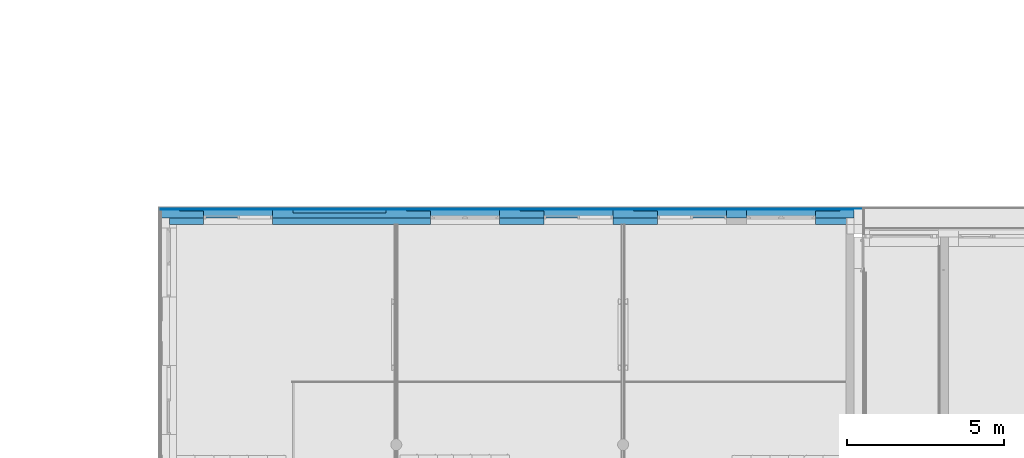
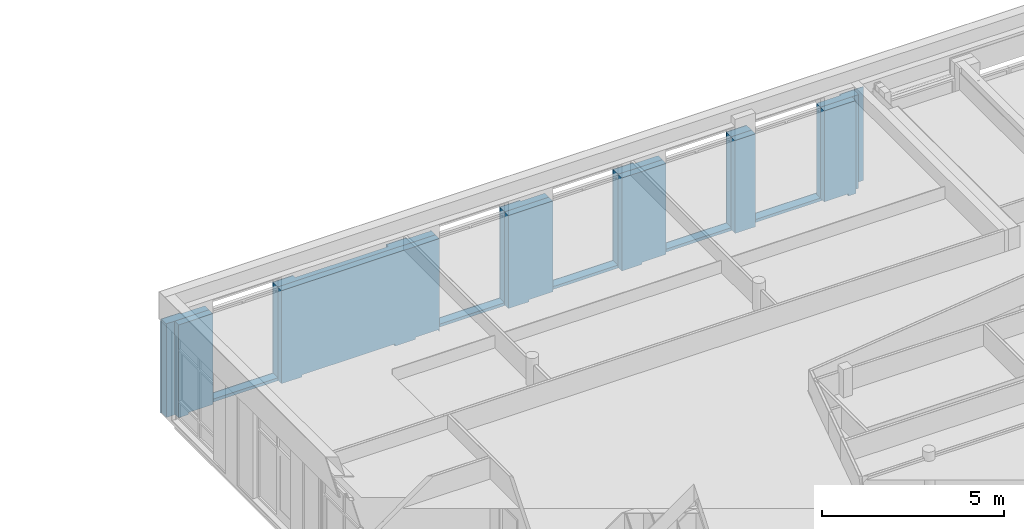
# One storey, part 40 of 167: 3 building element parts, 11 openings, 1 element without a shape of its own.
"""IFC2X3 building model written with IfcOpenShell, lengths in millimetres."""

from ifc_helpers import new_model, entity, si_unit, converted_unit, derived_unit, money_unit, direction, frame, origin_with_axes, place, context, subcontext, project, spatial, faceted_brep, material, type_object, element, aggregate, save


model = new_model("IFC2X3")

# Units and contexts
model_context = context("Model", 3, precision=0.01, world=origin_with_axes(), true_north=direction((0.0, 1.0)))
plan_context = context("Plan", 3, precision=0.01, world=origin_with_axes(), true_north=direction((0.0, 1.0)))
body_context = subcontext(model_context, "Body", "Model", "MODEL_VIEW")
ifc_project = project(units=[si_unit("LENGTHUNIT", "METRE", prefix="MILLI"), si_unit("AREAUNIT", "SQUARE_METRE"), si_unit("VOLUMEUNIT", "CUBIC_METRE"), converted_unit("PLANEANGLEUNIT", "DEGREE", entity("IfcPlaneAngleMeasure", 0.0174532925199), si_unit("PLANEANGLEUNIT", "RADIAN"), dimensions=[0, 0, 0, 0, 0, 0, 0]), si_unit("SOLIDANGLEUNIT", "STERADIAN"), money_unit("EUR"), converted_unit("TIMEUNIT", "Year", entity("IfcTimeMeasure", 31556926.0), si_unit("TIMEUNIT", "SECOND"), dimensions=[0, 0, 1, 0, 0, 0, 0]), si_unit("MASSUNIT", "GRAM", prefix="KILO"), si_unit("THERMODYNAMICTEMPERATUREUNIT", "DEGREE_CELSIUS"), si_unit("LUMINOUSINTENSITYUNIT", "LUMEN"), si_unit("ENERGYUNIT", "JOULE", prefix="MEGA"), derived_unit("THERMALCONDUCTANCEUNIT", [(si_unit("POWERUNIT", "WATT"), 1), (si_unit("LENGTHUNIT", "METRE"), -1), (si_unit("THERMODYNAMICTEMPERATUREUNIT", "KELVIN"), -1)]), derived_unit("SPECIFICHEATCAPACITYUNIT", [(si_unit("ENERGYUNIT", "JOULE"), 1), (si_unit("MASSUNIT", "GRAM", prefix="KILO"), -1), (si_unit("THERMODYNAMICTEMPERATUREUNIT", "KELVIN"), -1)]), derived_unit("MASSDENSITYUNIT", [(si_unit("MASSUNIT", "GRAM", prefix="KILO"), 1), (si_unit("VOLUMEUNIT", "CUBIC_METRE"), -1)])], contexts=[model_context, plan_context])

# Site, building, storey
site_placement = place(None, origin_with_axes())
site = spatial("IfcSite", under=ifc_project, at=site_placement, Name="Site", CompositionType="ELEMENT")
building_placement = place(site_placement, origin_with_axes())
building = spatial("IfcBuilding", under=site, at=building_placement, Name="Naam gebouw", CompositionType="ELEMENT")
storey_placement = place(building_placement, origin_with_axes())
storey = spatial("IfcBuildingStorey", under=building, at=storey_placement, Name="Begane grond", CompositionType="ELEMENT", Elevation=0.0)

# Wall, openings, building element parts
wall_type = type_object("IfcWallType", Name="_TenW_21_E-BOARD_bg_standaard 498", PredefinedType="NOTDEFINED")
wall_placement = place(storey_placement, frame((21725.0, 50400.0, -100.0), z_axis=(0.0, 0.0, 1.0), x_axis=(-1.0, 0.0, 0.0)))
wall = element("IfcWall", 1, at=wall_placement, inside=storey, type_object=wall_type, Name="21_Wand_Wand-x")
opening_1_placement = place(wall_placement, frame((21020.6609441, 0.0, 100.0), z_axis=(0.0, 0.0, 1.0), x_axis=(1.0, 0.0, 0.0)))
element("IfcOpeningElement", 2, at=opening_1_placement, cuts=wall, Name="31_Raam_-", context=body_context, shape_type="Brep", body=[
    faceted_brep([(382.125, -782.0, 0.0), (-382.125, -782.0, 0.0), (-382.125, -224.0, 0.0), (382.125, -224.0, 0.0), (382.125, -782.0, 3050.0), (-382.125, -782.0, 3050.0), (-382.125, -224.0, 3050.0), (382.125, -224.0, 3050.0)], [[[0, 1, 2, 3]], [[0, 4, 5, 1]], [[1, 5, 6, 2]], [[3, 2, 6, 7]], [[4, 0, 3, 7]], [[5, 4, 7, 6]]]),
])
opening_2_placement = place(wall_placement, frame((16325.0859441, 0.0, 100.0), z_axis=(0.0, 0.0, 1.0), x_axis=(1.0, 0.0, 0.0)))
element("IfcOpeningElement", 3, at=opening_2_placement, cuts=wall, Name="31_Raam_-", context=body_context, shape_type="Brep", body=[
    faceted_brep([(1477.4, -782.0, 0.0), (-1477.4, -782.0, 0.0), (-1477.4, -160.0, 0.0), (1477.4, -160.0, 0.0), (1477.4, -782.0, 3050.0), (-1477.4, -782.0, 3050.0), (-1477.4, -160.0, 3050.0), (1477.4, -160.0, 3050.0)], [[[0, 1, 2, 3]], [[0, 4, 5, 1]], [[1, 5, 6, 2]], [[3, 2, 6, 7]], [[4, 0, 3, 7]], [[5, 4, 7, 6]]]),
])
opening_3_placement = place(wall_placement, frame((13820.0609441, 0.0, 100.0), z_axis=(0.0, 0.0, 1.0), x_axis=(1.0, 0.0, 0.0)))
element("IfcOpeningElement", 4, at=opening_3_placement, cuts=wall, Name="31_Raam_-", context=body_context, shape_type="Brep", body=[
    faceted_brep([(382.125, -782.0, 0.0), (-382.125, -782.0, 0.0), (-382.125, -224.0, 0.0), (382.125, -224.0, 0.0), (382.125, -782.0, 3050.0), (-382.125, -782.0, 3050.0), (-382.125, -224.0, 3050.0), (382.125, -224.0, 3050.0)], [[[0, 1, 2, 3]], [[0, 4, 5, 1]], [[1, 5, 6, 2]], [[3, 2, 6, 7]], [[4, 0, 3, 7]], [[5, 4, 7, 6]]]),
])
opening_4_placement = place(wall_placement, frame((10219.7609441, 0.0, 100.0), z_axis=(0.0, 0.0, 1.0), x_axis=(1.0, 0.0, 0.0)))
element("IfcOpeningElement", 5, at=opening_4_placement, cuts=wall, Name="31_Raam_-", context=body_context, shape_type="Brep", body=[
    faceted_brep([(382.125, -782.0, 0.0), (-382.125, -782.0, 0.0), (-382.125, -224.0, 0.0), (382.125, -224.0, 0.0), (382.125, -782.0, 3050.0), (-382.125, -782.0, 3050.0), (-382.125, -224.0, 3050.0), (382.125, -224.0, 3050.0)], [[[0, 1, 2, 3]], [[0, 4, 5, 1]], [[1, 5, 6, 2]], [[3, 2, 6, 7]], [[4, 0, 3, 7]], [[5, 4, 7, 6]]]),
])
opening_5_placement = place(wall_placement, frame((6619.46094407, 0.0, 100.0), z_axis=(0.0, 0.0, 1.0), x_axis=(1.0, 0.0, 0.0)))
element("IfcOpeningElement", 6, at=opening_5_placement, cuts=wall, Name="31_Raam_-", context=body_context, shape_type="Brep", body=[
    faceted_brep([(382.125, -782.0, 0.0), (-382.125, -782.0, 0.0), (-382.125, -224.0, 0.0), (382.125, -224.0, 0.0), (382.125, -782.0, 3050.0), (-382.125, -782.0, 3050.0), (-382.125, -224.0, 3050.0), (382.125, -224.0, 3050.0)], [[[0, 1, 2, 3]], [[0, 4, 5, 1]], [[1, 5, 6, 2]], [[3, 2, 6, 7]], [[4, 0, 3, 7]], [[5, 4, 7, 6]]]),
])
opening_6_placement = place(wall_placement, frame((828.610944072, 0.0, 100.0), z_axis=(0.0, 0.0, 1.0), x_axis=(1.0, 0.0, 0.0)))
element("IfcOpeningElement", 7, at=opening_6_placement, cuts=wall, Name="31_Raam_-", context=body_context, shape_type="Brep", body=[
    faceted_brep([(382.125, -782.0, 0.0), (-382.125, -782.0, 0.0), (-382.125, -224.0, 0.0), (382.125, -224.0, 0.0), (382.125, -782.0, 3050.0), (-382.125, -782.0, 3050.0), (-382.125, -224.0, 3050.0), (382.125, -224.0, 3050.0)], [[[0, 1, 2, 3]], [[0, 4, 5, 1]], [[1, 5, 6, 2]], [[3, 2, 6, 7]], [[4, 0, 3, 7]], [[5, 4, 7, 6]]]),
])
opening_7_placement = place(wall_placement, frame((12342.3859441, 0.0, 100.0), z_axis=(0.0, 0.0, 1.0), x_axis=(1.0, 0.0, 0.0)))
element("IfcOpeningElement", 8, at=opening_7_placement, cuts=wall, Name="31_Raam_He-16", context=body_context, shape_type="Brep", body=[
    faceted_brep([(-1095.0, -84.0, 0.0), (-1095.0, -84.0, 3050.0), (-1095.0, 712.0, 3050.0), (-1095.0, 712.0, 0.0), (1095.0, -84.0, 0.0), (1095.0, -84.0, 3050.0), (1095.0, 712.0, 3050.0), (1095.0, 712.0, 0.0)], [[[0, 1, 2, 3]], [[0, 4, 5, 1]], [[1, 5, 6, 2]], [[3, 2, 6, 7]], [[4, 0, 3, 7]], [[5, 4, 7, 6]]]),
    faceted_brep([(-1095.0, -84.0, 3050.0), (-1095.0, -84.0, 0.0), (-1095.0, -782.0, 0.0), (-1095.0, -782.0, 3050.0), (1095.0, -84.0, 3050.0), (1095.0, -84.0, 0.0), (1095.0, -782.0, 0.0), (1095.0, -782.0, 3050.0)], [[[0, 1, 2, 3]], [[0, 4, 5, 1]], [[1, 5, 6, 2]], [[3, 2, 6, 7]], [[4, 0, 3, 7]], [[5, 4, 7, 6]]]),
])
opening_8_placement = place(wall_placement, frame((2305.73594407, 0.0, 100.0), z_axis=(0.0, 0.0, 1.0), x_axis=(1.0, 0.0, 0.0)))
element("IfcOpeningElement", 9, at=opening_8_placement, cuts=wall, Name="31_Raam_He-16", context=body_context, shape_type="Brep", body=[
    faceted_brep([(-1095.0, -84.0, 0.0), (-1095.0, -84.0, 3050.0), (-1095.0, 712.0, 3050.0), (-1095.0, 712.0, 0.0), (1095.0, -84.0, 0.0), (1095.0, -84.0, 3050.0), (1095.0, 712.0, 3050.0), (1095.0, 712.0, 0.0)], [[[0, 1, 2, 3]], [[0, 4, 5, 1]], [[1, 5, 6, 2]], [[3, 2, 6, 7]], [[4, 0, 3, 7]], [[5, 4, 7, 6]]]),
    faceted_brep([(-1095.0, -84.0, 3050.0), (-1095.0, -84.0, 0.0), (-1095.0, -782.0, 0.0), (-1095.0, -782.0, 3050.0), (1095.0, -84.0, 3050.0), (1095.0, -84.0, 0.0), (1095.0, -782.0, 0.0), (1095.0, -782.0, 3050.0)], [[[0, 1, 2, 3]], [[0, 4, 5, 1]], [[1, 5, 6, 2]], [[3, 2, 6, 7]], [[4, 0, 3, 7]], [[5, 4, 7, 6]]]),
])
opening_9_placement = place(wall_placement, frame((19543.5359441, 0.0, 100.0), z_axis=(0.0, 0.0, 1.0), x_axis=(1.0, 0.0, 0.0)))
element("IfcOpeningElement", 10, at=opening_9_placement, cuts=wall, Name="32_Deur_He-08s", context=body_context, shape_type="Brep", body=[
    faceted_brep([(1095.0, -84.0, 3050.0), (1095.0, -84.0, 0.0), (1095.0, 712.0, 0.0), (1095.0, 712.0, 3050.0), (-1095.0, -84.0, 3050.0), (-1095.0, -84.0, 0.0), (-1095.0, 712.0, 0.0), (-1095.0, 712.0, 3050.0)], [[[0, 1, 2, 3]], [[0, 4, 5, 1]], [[1, 5, 6, 2]], [[3, 2, 6, 7]], [[4, 0, 3, 7]], [[5, 4, 7, 6]]]),
    faceted_brep([(1095.0, -84.0, 0.0), (1095.0, -84.0, 3050.0), (1095.0, -782.0, 3050.0), (1095.0, -782.0, 0.0), (-1095.0, -84.0, 0.0), (-1095.0, -84.0, 3050.0), (-1095.0, -782.0, 3050.0), (-1095.0, -782.0, 0.0)], [[[0, 1, 2, 3]], [[0, 4, 5, 1]], [[1, 5, 6, 2]], [[3, 2, 6, 7]], [[4, 0, 3, 7]], [[5, 4, 7, 6]]]),
])
opening_10_placement = place(wall_placement, frame((8742.63594407, 0.0, 100.0), z_axis=(0.0, 0.0, 1.0), x_axis=(1.0, 0.0, 0.0)))
element("IfcOpeningElement", 11, at=opening_10_placement, cuts=wall, Name="32_Deur_He-08s", context=body_context, shape_type="Brep", body=[
    faceted_brep([(1095.0, -84.0, 3050.0), (1095.0, -84.0, 0.0), (1095.0, 712.0, 0.0), (1095.0, 712.0, 3050.0), (-1095.0, -84.0, 3050.0), (-1095.0, -84.0, 0.0), (-1095.0, 712.0, 0.0), (-1095.0, 712.0, 3050.0)], [[[0, 1, 2, 3]], [[0, 4, 5, 1]], [[1, 5, 6, 2]], [[3, 2, 6, 7]], [[4, 0, 3, 7]], [[5, 4, 7, 6]]]),
    faceted_brep([(1095.0, -84.0, 0.0), (1095.0, -84.0, 3050.0), (1095.0, -782.0, 3050.0), (1095.0, -782.0, 0.0), (-1095.0, -84.0, 0.0), (-1095.0, -84.0, 3050.0), (-1095.0, -782.0, 3050.0), (-1095.0, -782.0, 0.0)], [[[0, 1, 2, 3]], [[0, 4, 5, 1]], [[1, 5, 6, 2]], [[3, 2, 6, 7]], [[4, 0, 3, 7]], [[5, 4, 7, 6]]]),
])
opening_11_placement = place(wall_placement, frame((5142.33594407, 0.0, 100.0), z_axis=(0.0, 0.0, 1.0), x_axis=(1.0, 0.0, 0.0)))
element("IfcOpeningElement", 12, at=opening_11_placement, cuts=wall, Name="32_Deur_He-08", context=body_context, shape_type="Brep", body=[
    faceted_brep([(-1095.0, 712.0, 3050.0), (-1095.0, 712.0, 0.0), (-1095.0, -84.0, 0.0), (-1095.0, -84.0, 3050.0), (1095.0, 712.0, 3050.0), (1095.0, 712.0, 0.0), (1095.0, -84.0, 0.0), (1095.0, -84.0, 3050.0)], [[[0, 1, 2, 3]], [[0, 4, 5, 1]], [[1, 5, 6, 2]], [[3, 2, 6, 7]], [[4, 0, 3, 7]], [[5, 4, 7, 6]]]),
    faceted_brep([(-1095.0, -782.0, 0.0), (-1095.0, -782.0, 3050.0), (-1095.0, -84.0, 3050.0), (-1095.0, -84.0, 0.0), (1095.0, -782.0, 0.0), (1095.0, -782.0, 3050.0), (1095.0, -84.0, 3050.0), (1095.0, -84.0, 0.0)], [[[0, 1, 2, 3]], [[0, 4, 5, 1]], [[1, 5, 6, 2]], [[3, 2, 6, 7]], [[4, 0, 3, 7]], [[5, 4, 7, 6]]]),
])
ifc_material_1 = material(Name="Steen - Kalkzandsteen C")
building_element_part_1_placement = place(wall_placement, origin_with_axes())
building_element_part_1 = element("IfcBuildingElementPart", 13, at=building_element_part_1_placement, material=ifc_material_1, Name="Steen - Kalkzandsteen C", context=body_context, shape_type="Brep", body=[
    faceted_brep([(6237.33594407, 214.0, 3150.0), (6237.33594407, 0.0, 3150.0), (7647.63594407, 0.0, 3150.0), (7647.63594407, 214.0, 3150.0), (6237.33594407, 0.0, 100.0), (6237.33594407, 214.0, 100.0), (7001.58594407, 0.0, 100.0), (7001.58594407, 0.0, 30.0), (7647.63594407, 0.0, 30.0), (7647.63594407, 0.0, 100.0), (7647.63594407, 214.0, 100.0), (7647.63594407, 214.0, 30.0), (7001.58594407, 214.0, 30.0), (7001.58594407, 214.0, 100.0)], [[[0, 1, 2, 3]], [[4, 1, 0, 5]], [[1, 4, 6, 7, 8, 9, 2]], [[2, 9, 10, 3]], [[5, 0, 3, 10, 11, 12, 13]], [[4, 5, 13, 6]], [[13, 12, 7, 6]], [[7, 12, 11, 8]], [[9, 8, 11, 10]]]),
    faceted_brep([(14847.6859441, 0.0, 100.0), (17802.4859441, 0.0, 100.0), (17802.4859441, 0.0, 30.0), (18448.5359441, 0.0, 30.0), (18448.5359441, 0.0, 100.0), (18448.5359441, 0.0, 3150.0), (13437.3859441, 0.0, 3150.0), (13437.3859441, 0.0, 100.0), (13437.3859441, 0.0, 30.0), (13437.9359441, 0.0, 30.0), (13437.9359441, 0.0, 100.0), (14202.1859441, 0.0, 100.0), (14202.1859441, 0.0, 30.0), (14847.6859441, 0.0, 30.0), (14847.6859441, 214.0, 100.0), (17802.4859441, 214.0, 100.0), (17802.4859441, 214.0, 30.0), (18448.5359441, 214.0, 30.0), (18448.5359441, 214.0, 100.0), (18448.5359441, 214.0, 3150.0), (13437.3859441, 214.0, 3150.0), (13437.3859441, 214.0, 100.0), (13437.3859441, 214.0, 30.0), (13437.9359441, 214.0, 30.0), (13437.9359441, 214.0, 100.0), (14202.1859441, 214.0, 100.0), (14202.1859441, 214.0, 30.0), (14847.6859441, 214.0, 30.0)], [[[0, 1, 2, 3, 4, 5, 6, 7, 8, 9, 10, 11, 12, 13]], [[1, 0, 14, 15]], [[2, 1, 15, 16]], [[17, 3, 2, 16]], [[18, 4, 3, 17]], [[19, 5, 4, 18]], [[5, 19, 20, 6]], [[21, 7, 6, 20]], [[8, 7, 21, 22]], [[23, 9, 8, 22]], [[10, 9, 23, 24]], [[11, 10, 24, 25]], [[12, 11, 25, 26]], [[27, 13, 12, 26]], [[0, 13, 27, 14]], [[23, 22, 21, 20, 19, 18, 17, 16, 15, 14, 27, 26, 25, 24]]]),
    faceted_brep([(1210.73594407, 0.0, 100.0), (1210.73594407, 0.0, 3150.0), (214.0, 0.0, 3150.0), (214.0, 0.0, 30.0), (446.485944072, 0.0, 30.0), (446.485944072, 0.0, 100.0), (1210.73594407, 214.0, 100.0), (1210.73594407, 214.0, 3150.0), (214.0, 214.0, 3150.0), (214.0, 214.0, 30.0), (446.485944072, 214.0, 30.0), (446.485944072, 214.0, 100.0)], [[[0, 1, 2, 3, 4, 5]], [[0, 6, 7, 1]], [[8, 2, 1, 7]], [[9, 3, 2, 8]], [[10, 4, 3, 9]], [[5, 4, 10, 11]], [[5, 11, 6, 0]], [[7, 6, 11, 10, 9, 8]]]),
    faceted_brep([(11247.3859441, 0.0, 3150.0), (11247.3859441, 214.0, 3150.0), (9837.63594407, 214.0, 3150.0), (9837.63594407, 0.0, 3150.0), (11247.3859441, 0.0, 100.0), (11247.3859441, 214.0, 100.0), (10601.8859441, 214.0, 30.0), (10601.8859441, 214.0, 100.0), (9837.63594407, 214.0, 100.0), (11247.3859441, 214.0, 30.0), (9837.63594407, 0.0, 100.0), (10601.8859441, 0.0, 100.0), (10601.8859441, 0.0, 30.0), (11247.3859441, 0.0, 30.0)], [[[0, 1, 2, 3]], [[4, 5, 1, 0]], [[6, 7, 8, 2, 1, 5, 9]], [[2, 8, 10, 3]], [[4, 0, 3, 10, 11, 12, 13]], [[13, 9, 5, 4]], [[6, 12, 11, 7]], [[7, 11, 10, 8]], [[6, 9, 13, 12]]]),
    faceted_brep([(20638.5359441, 214.0, 3150.0), (20638.5359441, 0.0, 3150.0), (21725.0, 0.0, 3150.0), (21725.0, 214.0, 3150.0), (20638.5359441, 0.0, 100.0), (20638.5359441, 214.0, 100.0), (21402.7859441, 0.0, 100.0), (21402.7859441, 0.0, 30.0), (21725.0, 0.0, 30.0), (21725.0, 214.0, 30.0), (21402.7859441, 214.0, 30.0), (21402.7859441, 214.0, 100.0)], [[[0, 1, 2, 3]], [[4, 1, 0, 5]], [[6, 7, 8, 2, 1, 4]], [[8, 9, 3, 2]], [[3, 9, 10, 11, 5, 0]], [[4, 5, 11, 6]], [[7, 6, 11, 10]], [[7, 10, 9, 8]]]),
    faceted_brep([(4047.33594407, 0.0, 100.0), (4047.33594407, 0.0, 3150.0), (3400.73594407, 0.0, 3150.0), (3400.73594407, 0.0, 100.0), (3400.73594407, 0.0, 30.0), (4047.33594407, 0.0, 30.0), (4047.33594407, 214.0, 3150.0), (4047.33594407, 214.0, 100.0), (3400.73594407, 214.0, 3150.0), (3400.73594407, 214.0, 100.0), (3400.73594407, 214.0, 30.0), (4047.33594407, 214.0, 30.0)], [[[0, 1, 2, 3, 4, 5]], [[6, 1, 0, 7]], [[1, 6, 8, 2]], [[3, 2, 8, 9]], [[3, 9, 10, 4]], [[4, 10, 11, 5]], [[7, 0, 5, 11]], [[6, 7, 11, 10, 9, 8]]]),
])
ifc_material_2 = material(Name="Isolatie - Steenwol zacht")
building_element_part_2_placement = place(wall_placement, origin_with_axes())
building_element_part_2 = element("IfcBuildingElementPart", 14, at=building_element_part_2_placement, material=ifc_material_2, Name="Isolatie - Steenwol zacht", context=body_context, shape_type="Brep", body=[
    faceted_brep([(4047.33594407, -84.0, 100.0), (4047.33594407, -84.0, 3150.0), (4047.33594407, -264.0, 3150.0), (4047.33594407, -264.0, 100.0), (4047.33594407, 0.0, 3150.0), (4047.33594407, 0.0, 100.0), (3400.73594407, 0.0, 3150.0), (3400.73594407, -84.0, 3150.0), (3400.73594407, -264.0, 3150.0), (7647.63594407, -264.0, 3150.0), (7001.58594407, -264.0, 3150.0), (7001.58594407, -264.0, 100.0), (3400.73594407, -264.0, 100.0), (446.485944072, -264.0, 100.0), (446.485944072, -264.0, 3150.0), (0.0, -264.0, 3150.0), (0.0, -264.0, 0.0), (21989.0, -264.0, 0.0), (21989.0, -264.0, 3150.0), (21402.7859441, -264.0, 3150.0), (21402.7859441, -264.0, 100.0), (18448.5359441, -264.0, 100.0), (18448.5359441, -264.0, 3150.0), (17802.4859441, -264.0, 3150.0), (17802.4859441, -264.0, 100.0), (14847.6859441, -264.0, 100.0), (14847.6859441, -264.0, 3150.0), (14202.1859441, -264.0, 3150.0), (14202.1859441, -264.0, 100.0), (13437.9359441, -264.0, 100.0), (13437.9359441, -264.0, 3150.0), (13437.3859441, -264.0, 3150.0), (13437.3859441, -264.0, 100.0), (11247.3859441, -264.0, 100.0), (11247.3859441, -264.0, 3150.0), (10601.8859441, -264.0, 3150.0), (10601.8859441, -264.0, 100.0), (7647.63594407, -264.0, 100.0), (6237.33594407, -84.0, 100.0), (7001.58594407, -224.0, 100.0), (6237.33594407, -224.0, 100.0), (6237.33594407, 0.0, 100.0), (6237.33594407, 0.0, 3150.0), (7647.63594407, 0.0, 3150.0), (7647.63594407, 0.0, 100.0), (9837.63594407, 0.0, 100.0), (9837.63594407, 0.0, 3150.0), (11247.3859441, 0.0, 3150.0), (11247.3859441, 0.0, 100.0), (13437.3859441, 0.0, 100.0), (13437.3859441, 0.0, 3150.0), (18448.5359441, 0.0, 3150.0), (18448.5359441, 0.0, 100.0), (20638.5359441, 0.0, 100.0), (20638.5359441, 0.0, 3150.0), (21989.0, 0.0, 3150.0), (21989.0, 0.0, 0.0), (0.0, 0.0, 0.0), (0.0, 0.0, 3150.0), (1210.73594407, 0.0, 3150.0), (1210.73594407, 0.0, 100.0), (3400.73594407, 0.0, 100.0), (3400.73594407, -84.0, 100.0), (6237.33594407, -84.0, 3150.0), (6237.33594407, -224.0, 3150.0), (7001.58594407, -224.0, 3150.0), (7647.63594407, -84.0, 3150.0), (1210.73594407, -84.0, 100.0), (1210.73594407, -224.0, 100.0), (446.485944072, -224.0, 100.0), (446.485944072, -224.0, 3150.0), (1210.73594407, -224.0, 3150.0), (1210.73594407, -84.0, 3150.0), (20638.5359441, -224.0, 3150.0), (21402.7859441, -224.0, 3150.0), (20638.5359441, -84.0, 3150.0), (21402.7859441, -224.0, 100.0), (20638.5359441, -84.0, 100.0), (18448.5359441, -84.0, 100.0), (20638.5359441, -224.0, 100.0), (18448.5359441, -84.0, 3150.0), (13437.3859441, -84.0, 3150.0), (13437.9359441, -224.0, 3150.0), (14202.1859441, -224.0, 3150.0), (14847.6859441, -160.0, 3150.0), (17802.4859441, -160.0, 3150.0), (17802.4859441, -160.0, 100.0), (14847.6859441, -160.0, 100.0), (14202.1859441, -224.0, 100.0), (13437.9359441, -224.0, 100.0), (13437.3859441, -84.0, 100.0), (11247.3859441, -84.0, 100.0), (11247.3859441, -84.0, 3150.0), (9837.63594407, -224.0, 3150.0), (10601.8859441, -224.0, 3150.0), (9837.63594407, -84.0, 3150.0), (10601.8859441, -224.0, 100.0), (9837.63594407, -84.0, 100.0), (7647.63594407, -84.0, 100.0), (9837.63594407, -224.0, 100.0)], [[[0, 1, 2, 3]], [[4, 1, 0, 5]], [[1, 4, 6, 7, 8, 2]], [[9, 10, 11, 3, 2, 8, 12, 13, 14, 15, 16, 17, 18, 19, 20, 21, 22, 23, 24, 25, 26, 27, 28, 29, 30, 31, 32, 33, 34, 35, 36, 37]], [[38, 0, 3, 11, 39, 40]], [[0, 38, 41, 5]], [[41, 42, 43, 44, 45, 46, 47, 48, 49, 50, 51, 52, 53, 54, 55, 56, 57, 58, 59, 60, 61, 6, 4, 5]], [[6, 61, 62, 7]], [[12, 8, 7, 62]], [[42, 63, 64, 65, 10, 9, 66, 43]], [[39, 11, 10, 65]], [[62, 67, 68, 69, 13, 12]], [[13, 69, 70, 14]], [[15, 14, 70, 71, 72, 59, 58]], [[58, 57, 16, 15]], [[56, 17, 16, 57]], [[17, 56, 55, 18]], [[73, 74, 19, 18, 55, 54, 75]], [[76, 20, 19, 74]], [[77, 78, 21, 20, 76, 79]], [[78, 80, 22, 21]], [[50, 81, 31, 30, 82, 83, 27, 26, 84, 85, 23, 22, 80, 51]], [[85, 86, 24, 23]], [[86, 87, 25, 24]], [[25, 87, 84, 26]], [[27, 83, 88, 28]], [[28, 88, 89, 29]], [[30, 29, 89, 82]], [[81, 90, 32, 31]], [[90, 91, 33, 32]], [[91, 92, 34, 33]], [[93, 94, 35, 34, 92, 47, 46, 95]], [[36, 35, 94, 96]], [[97, 98, 37, 36, 96, 99]], [[9, 37, 98, 66]], [[40, 39, 65, 64]], [[63, 38, 40, 64]], [[38, 63, 42, 41]], [[98, 44, 43, 66]], [[45, 44, 98, 97]], [[46, 45, 97, 95]], [[47, 92, 91, 48]], [[91, 90, 49, 48]], [[90, 81, 50, 49]], [[51, 80, 78, 52]], [[78, 77, 53, 52]], [[77, 75, 54, 53]], [[67, 60, 59, 72]], [[61, 60, 67, 62]], [[71, 68, 67, 72]], [[69, 68, 71, 70]], [[79, 76, 74, 73]], [[75, 77, 79, 73]], [[82, 89, 88, 83]], [[87, 86, 85, 84]], [[94, 93, 99, 96]], [[99, 93, 95, 97]]]),
])
ifc_material_3 = material(Name="_TenW_21_Steen - Baksteen")
building_element_part_3_placement = place(wall_placement, origin_with_axes())
building_element_part_3 = element("IfcBuildingElementPart", 15, at=building_element_part_3_placement, material=ifc_material_3, Name="_TenW_21_Steen - Baksteen", context=body_context, shape_type="Brep", body=[
    faceted_brep([(6237.33594407, -284.0, 100.0), (4047.33594407, -284.0, 100.0), (4047.33594407, -284.0, 3150.0), (3400.73594407, -284.0, 3150.0), (3400.73594407, -284.0, 100.0), (446.485944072, -284.0, 100.0), (446.485944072, -284.0, 3150.0), (-304.0, -284.0, 3150.0), (-304.0, -284.0, 0.0), (22009.0, -284.0, 0.0), (22009.0, -284.0, 3150.0), (21402.7859441, -284.0, 3150.0), (21402.7859441, -284.0, 100.0), (18448.5359441, -284.0, 100.0), (18448.5359441, -284.0, 3150.0), (17802.4859441, -284.0, 3150.0), (17802.4859441, -284.0, 100.0), (14847.6859441, -284.0, 100.0), (14847.6859441, -284.0, 3150.0), (14202.1859441, -284.0, 3150.0), (14202.1859441, -284.0, 100.0), (13437.9359441, -284.0, 100.0), (13437.9359441, -284.0, 3150.0), (13437.3859441, -284.0, 3150.0), (13437.3859441, -284.0, 100.0), (11247.3859441, -284.0, 100.0), (11247.3859441, -284.0, 3150.0), (10601.8859441, -284.0, 3150.0), (10601.8859441, -284.0, 100.0), (7647.63594407, -284.0, 100.0), (7647.63594407, -284.0, 3150.0), (7001.58594407, -284.0, 3150.0), (7001.58594407, -284.0, 100.0), (6237.33594407, -264.0, 100.0), (4047.33594407, -264.0, 100.0), (7001.58594407, -264.0, 100.0), (4047.33594407, -264.0, 3150.0), (3400.73594407, -264.0, 3150.0), (3400.73594407, -264.0, 100.0), (1210.73594407, -264.0, 100.0), (446.485944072, -264.0, 100.0), (446.485944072, -264.0, 3150.0), (-304.0, -264.0, 3150.0), (-304.0, -264.0, 0.0), (22009.0, -264.0, 0.0), (22009.0, -264.0, 3150.0), (21402.7859441, -264.0, 3150.0), (21402.7859441, -264.0, 100.0), (20638.5359441, -264.0, 100.0), (18448.5359441, -264.0, 100.0), (18448.5359441, -264.0, 3150.0), (17802.4859441, -264.0, 3150.0), (17802.4859441, -264.0, 100.0), (14847.6859441, -264.0, 100.0), (14847.6859441, -264.0, 3150.0), (14202.1859441, -264.0, 3150.0), (14202.1859441, -264.0, 100.0), (13437.9359441, -264.0, 100.0), (13437.9359441, -264.0, 3150.0), (13437.3859441, -264.0, 3150.0), (13437.3859441, -264.0, 100.0), (11247.3859441, -264.0, 100.0), (11247.3859441, -264.0, 3150.0), (10601.8859441, -264.0, 3150.0), (10601.8859441, -264.0, 100.0), (9837.63594407, -264.0, 100.0), (7647.63594407, -264.0, 100.0), (7647.63594407, -264.0, 3150.0), (7001.58594407, -264.0, 3150.0)], [[[0, 1, 2, 3, 4, 5, 6, 7, 8, 9, 10, 11, 12, 13, 14, 15, 16, 17, 18, 19, 20, 21, 22, 23, 24, 25, 26, 27, 28, 29, 30, 31, 32]], [[33, 34, 1, 0, 32, 35]], [[36, 2, 1, 34]], [[2, 36, 37, 3]], [[38, 4, 3, 37]], [[38, 39, 40, 5, 4]], [[6, 5, 40, 41]], [[41, 42, 7, 6]], [[42, 43, 8, 7]], [[44, 9, 8, 43]], [[9, 44, 45, 10]], [[10, 45, 46, 11]], [[46, 47, 12, 11]], [[47, 48, 49, 13, 12]], [[13, 49, 50, 14]], [[51, 15, 14, 50]], [[15, 51, 52, 16]], [[16, 52, 53, 17]], [[18, 17, 53, 54]], [[55, 19, 18, 54]], [[20, 19, 55, 56]], [[21, 20, 56, 57]], [[58, 22, 21, 57]], [[59, 23, 22, 58]], [[24, 23, 59, 60]], [[25, 24, 60, 61]], [[62, 26, 25, 61]], [[26, 62, 63, 27]], [[64, 28, 27, 63]], [[29, 28, 64, 65, 66]], [[30, 29, 66, 67]], [[67, 68, 31, 30]], [[68, 35, 32, 31]], [[34, 33, 35, 68, 67, 66, 65, 64, 63, 62, 61, 60, 59, 58, 57, 56, 55, 54, 53, 52, 51, 50, 49, 48, 47, 46, 45, 44, 43, 42, 41, 40, 39, 38, 37, 36]]]),
])
aggregate(wall, [building_element_part_1, building_element_part_2, building_element_part_3])

save(model, "model.ifc")
